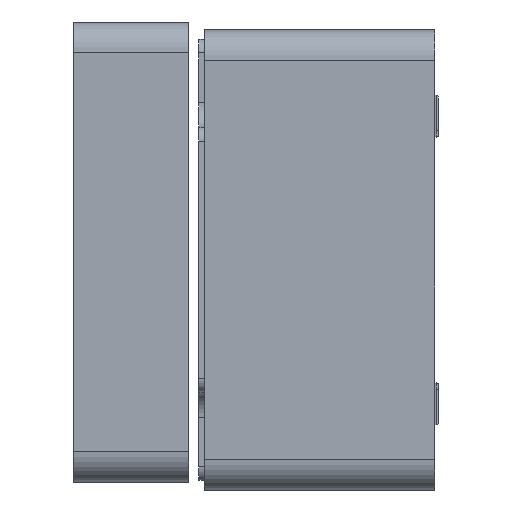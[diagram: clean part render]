
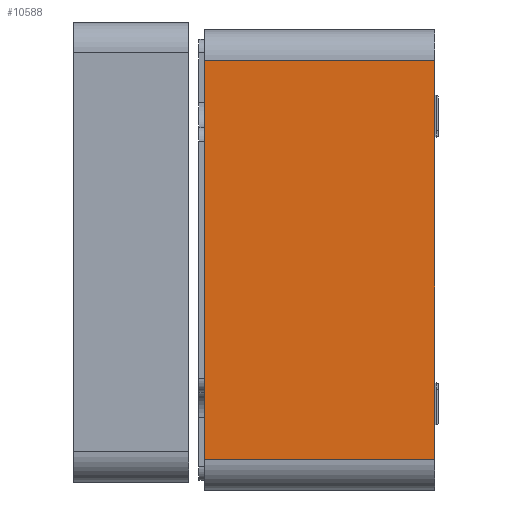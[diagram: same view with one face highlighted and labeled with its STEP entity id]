
A CAD part, left-side view. The second image highlights one B-rep face of the part: STEP entity #10588.
In plain terms, the highlighted planar face has unit normal (-1, 0, 0).
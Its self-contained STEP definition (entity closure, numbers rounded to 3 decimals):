
#279 = DIRECTION ( 'NONE',  ( 0., -1., 0. ) ) ;
#2399 = VERTEX_POINT ( 'NONE', #4205 ) ;
#2684 = CARTESIAN_POINT ( 'NONE',  ( -110., 0., 52. ) ) ;
#3211 = LINE ( 'NONE', #15474, #9077 ) ;
#4114 = LINE ( 'NONE', #14592, #6636 ) ;
#4205 = CARTESIAN_POINT ( 'NONE',  ( -110., 60., 52. ) ) ;
#5186 = CARTESIAN_POINT ( 'NONE',  ( -110., 60., 52. ) ) ;
#5394 = CARTESIAN_POINT ( 'NONE',  ( -110., 0., -60. ) ) ;
#6636 = VECTOR ( 'NONE', #279, 1000. ) ;
#6803 = ORIENTED_EDGE ( 'NONE', *, *, #17465, .T. ) ;
#7356 = LINE ( 'NONE', #5186, #16121 ) ;
#8968 = EDGE_CURVE ( 'NONE', #10913, #24589, #9627, .T. ) ;
#9077 = VECTOR ( 'NONE', #9625, 1000. ) ;
#9625 = DIRECTION ( 'NONE',  ( 0., 0., 1. ) ) ;
#9627 = LINE ( 'NONE', #5394, #10101 ) ;
#10101 = VECTOR ( 'NONE', #17906, 1000. ) ;
#10588 = ADVANCED_FACE ( 'NONE', ( #22583 ), #18646, .F. ) ;
#10913 = VERTEX_POINT ( 'NONE', #16046 ) ;
#11678 = EDGE_CURVE ( 'NONE', #24589, #2399, #7356, .T. ) ;
#14530 = EDGE_LOOP ( 'NONE', ( #23620, #14807, #22654, #6803 ) ) ;
#14592 = CARTESIAN_POINT ( 'NONE',  ( -110., 60., -52. ) ) ;
#14807 = ORIENTED_EDGE ( 'NONE', *, *, #11678, .T. ) ;
#15474 = CARTESIAN_POINT ( 'NONE',  ( -110., 60., -60. ) ) ;
#16046 = CARTESIAN_POINT ( 'NONE',  ( -110., 0., -52. ) ) ;
#16121 = VECTOR ( 'NONE', #24341, 1000. ) ;
#16623 = DIRECTION ( 'NONE',  ( 0., 0., -1. ) ) ;
#17465 = EDGE_CURVE ( 'NONE', #23638, #10913, #4114, .T. ) ;
#17905 = CARTESIAN_POINT ( 'NONE',  ( -110., 60., -52. ) ) ;
#17906 = DIRECTION ( 'NONE',  ( 0., 0., 1. ) ) ;
#18250 = DIRECTION ( 'NONE',  ( 1., 0., 0. ) ) ;
#18390 = CARTESIAN_POINT ( 'NONE',  ( -110., 60., -60. ) ) ;
#18646 = PLANE ( 'NONE',  #26174 ) ;
#22583 = FACE_OUTER_BOUND ( 'NONE', #14530, .T. ) ;
#22654 = ORIENTED_EDGE ( 'NONE', *, *, #23608, .F. ) ;
#23608 = EDGE_CURVE ( 'NONE', #23638, #2399, #3211, .T. ) ;
#23620 = ORIENTED_EDGE ( 'NONE', *, *, #8968, .T. ) ;
#23638 = VERTEX_POINT ( 'NONE', #17905 ) ;
#24341 = DIRECTION ( 'NONE',  ( 0., 1., 0. ) ) ;
#24589 = VERTEX_POINT ( 'NONE', #2684 ) ;
#26174 = AXIS2_PLACEMENT_3D ( 'NONE', #18390, #18250, #16623 ) ;
